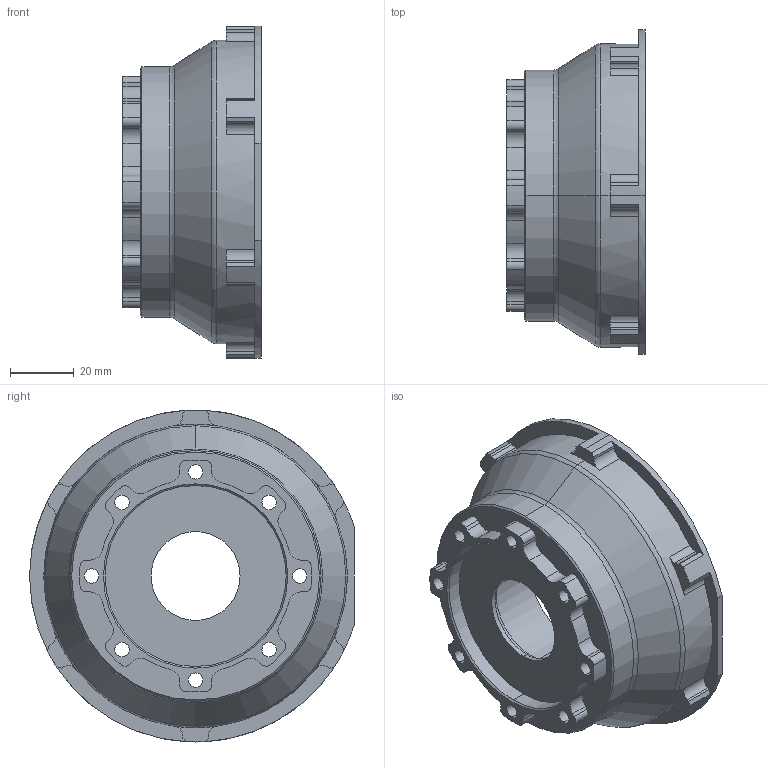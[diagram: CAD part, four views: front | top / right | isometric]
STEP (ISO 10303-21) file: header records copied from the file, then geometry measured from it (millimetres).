
FILE_DESCRIPTION (( 'STEP AP203' ), '1' );
FILE_NAME ('2-10-02-谐波旋转关节-转接座.STEP', '2022-10-23T03:02:19', ( 'OS' ), ( '' ), 'SwSTEP 2.0', 'SolidWorks 2018', '' );
FILE_SCHEMA (( 'CONFIG_CONTROL_DESIGN' ));
Length unit declared in the file: millimetre
Products named in the file (1): 2-10-02-谐波旋转关节-转接座
Bounding box: 43.5 x 102.25 x 104.5 mm (x, y, z)
Volume: 60459 mm3; surface area: 42684.5 mm2
Topology: 1 solids, 1 shells, 235 faces, 607 edges, 398 vertices
Faces by surface type: cylinder 140, plane 79, torus 8, cone 8
Entity records: 7418 total; most frequent: DIRECTION 1403, CARTESIAN_POINT 1241, ORIENTED_EDGE 1214, EDGE_CURVE 607, AXIS2_PLACEMENT_3D 560, VERTEX_POINT 398, CIRCLE 324, LINE 283
